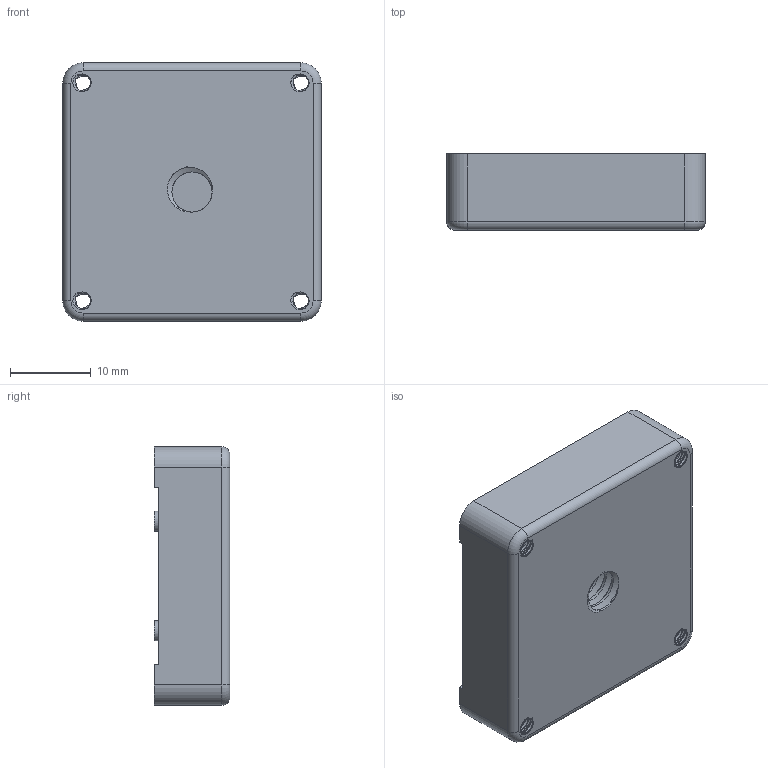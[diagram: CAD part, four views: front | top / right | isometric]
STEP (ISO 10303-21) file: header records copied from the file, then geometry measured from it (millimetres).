
FILE_DESCRIPTION (( 'STEP AP214' ), '1' );
FILE_NAME ('577-4-1 20250716.STEP', '2025-07-16T07:20:29', ( '' ), ( '' ), 'SwSTEP 2.0', 'SolidWorks 2022', '' );
FILE_SCHEMA (( 'AUTOMOTIVE_DESIGN' ));
Length unit declared in the file: millimetre
Products named in the file (1): 577-4-1 20250716
Bounding box: 32 x 9.4 x 32 mm (x, y, z)
Volume: 7538.9 mm3; surface area: 3852.5 mm2
Topology: 1 solids, 1 shells, 258 faces, 748 edges, 496 vertices
Faces by surface type: cylinder 200, plane 39, bspline 15, torus 4
Entity records: 25622 total; most frequent: CARTESIAN_POINT 19964, ORIENTED_EDGE 1496, DIRECTION 874, EDGE_CURVE 748, VERTEX_POINT 496, LINE 292, VECTOR 292, AXIS2_PLACEMENT_3D 291
